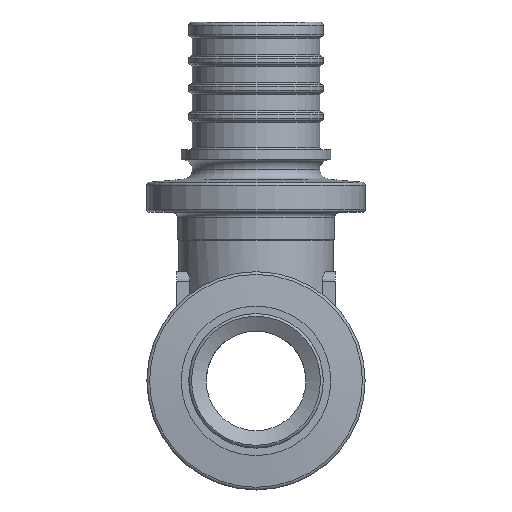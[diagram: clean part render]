
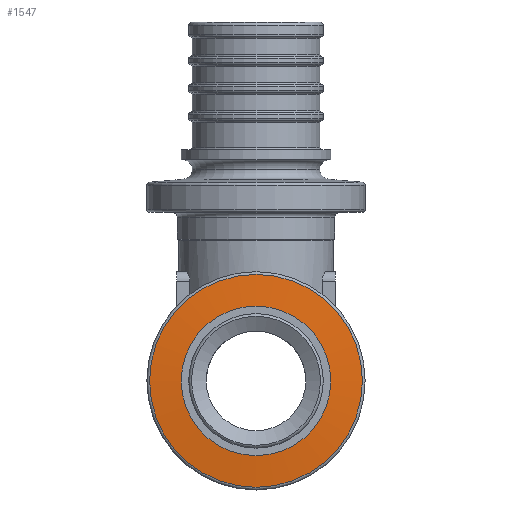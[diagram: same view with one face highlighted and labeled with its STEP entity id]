
A CAD part, front view. The second image highlights one B-rep face of the part: STEP entity #1547.
In plain terms, the highlighted conical face has half-angle 85 degrees and reference radius 8.995 mm.
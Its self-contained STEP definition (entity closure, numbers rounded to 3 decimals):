
#1547=ADVANCED_FACE('',(#3874,#3876),#3878,.T.);
#3874=FACE_OUTER_BOUND('',#3875,.T.);
#3875=EDGE_LOOP('',(#5944));
#3876=FACE_OUTER_BOUND('',#3877,.T.);
#3877=EDGE_LOOP('',(#5945));
#3878=CONICAL_SURFACE('',#3879,8.994,1.484);
#3879=AXIS2_PLACEMENT_3D('',#3880,#3881,#3882);
#3880=CARTESIAN_POINT('',(0.,-20.071,0.));
#3881=DIRECTION('',(0.,1.,0.));
#3882=DIRECTION('',(-1.,0.,0.));
#5944=ORIENTED_EDGE('',*,*,#6653,.T.);
#5945=ORIENTED_EDGE('',*,*,#6650,.T.);
#6650=EDGE_CURVE('',#7539,#7539,#7540,.F.);
#6653=EDGE_CURVE('',#7545,#7545,#7546,.T.);
#7539=VERTEX_POINT('',#9992);
#7540=CIRCLE('',#9993,10.676);
#7545=VERTEX_POINT('',#10007);
#7546=CIRCLE('',#10008,7.313);
#9992=CARTESIAN_POINT('',(-10.676,-19.924,0.));
#9993=AXIS2_PLACEMENT_3D('',#9994,#9995,#9996);
#9994=CARTESIAN_POINT('',(0.,-19.924,0.));
#9995=DIRECTION('',(0.,1.,0.));
#9996=DIRECTION('',(-1.,0.,0.));
#10007=CARTESIAN_POINT('',(-7.313,-20.218,0.));
#10008=AXIS2_PLACEMENT_3D('',#10009,#10010,#10011);
#10009=CARTESIAN_POINT('',(0.,-20.218,0.));
#10010=DIRECTION('',(0.,1.,0.));
#10011=DIRECTION('',(-1.,0.,0.));
